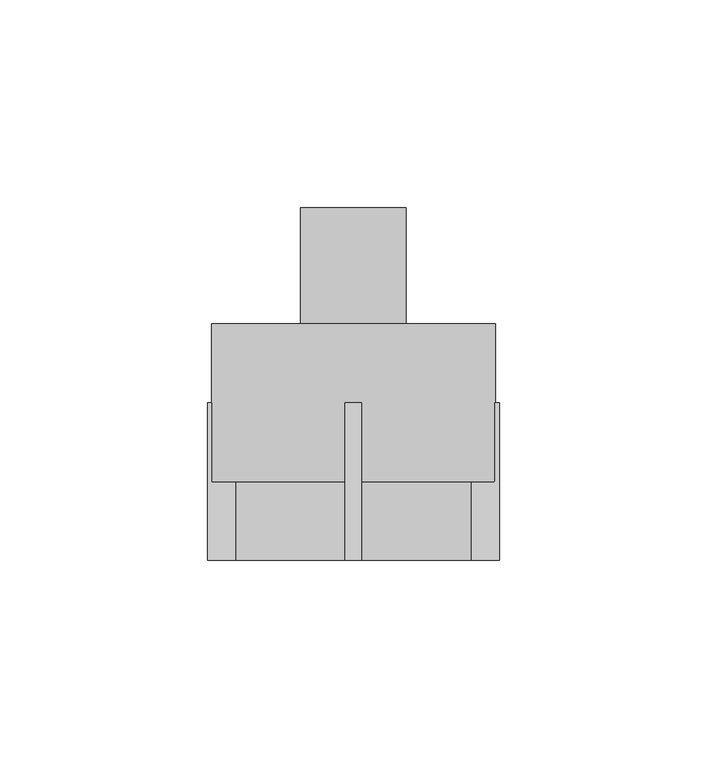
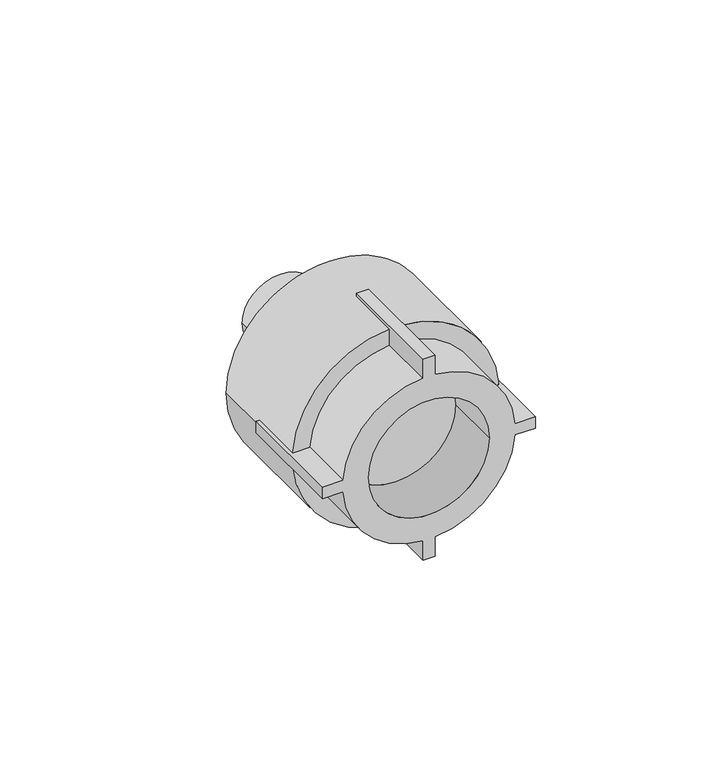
"""IFC4 building model written with IfcOpenShell, lengths in millimetres: pipe fitting geometry, EGB_VASEN_ PPR_Entronque rosca macho WXR101 : Entronque rosca macho WXR101."""

from ifc_helpers import new_model, si_unit, point, frame, origin, origin_2d, place, context, project, spatial, polyline, circle_curve, trimmed, segment, composite_curve, outline, extrude, source, transform, mapped, element, save
from ifc_brep_helpers import plane_surface, cylinder_surface, revolved_surface, advanced_brep


def pipe_fitting_75035f9a(model_context):
    return source(origin(), model_context, "Body", "SolidModel", [
        advanced_brep(
        [(2.0, -19.0, 35.2), (-2.0, -19.0, 35.2), (-2.0, -19.0, 28.429738), (-28.429738, -19.0, 2.0), (-35.2, -19.0, 2.0), (-35.2, -19.0, -2.0), (-28.429738, -19.0, -2.0), (-2.0, -19.0, -28.429738), (-2.0, -19.0, -35.2), (2.0, -19.0, -35.2), (2.0, -19.0, -28.429738), (28.429738, -19.0, -2.0), (35.2, -19.0, -2.0), (35.2, -19.0, 2.0), (28.429738, -19.0, 2.0), (2.0, -19.0, 28.429738), (-20.0, -19.0, 0.0), (20.0, -19.0, 0.0), (-2.0, 19.0, 35.2), (2.0, 19.0, 35.2), (2.0, 19.0, 34.1414704), (-2.0, 19.0, 34.1414704), (2.0, 19.0, -35.2), (-2.0, 19.0, -35.2), (-2.0, 19.0, -34.1414704), (2.0, 19.0, -34.1414704), (35.2, 19.0, 2.0), (35.2, 19.0, -2.0), (34.1414704, 19.0, -2.0), (34.2, 19.0, 0.0), (34.1414704, 19.0, 2.0), (-35.2, 19.0, -2.0), (-35.2, 19.0, 2.0), (-34.1414704, 19.0, 2.0), (-34.2, 19.0, 0.0), (-34.1414704, 19.0, -2.0), (2.0, 0.0, 28.429738), (2.0, 0.0, 34.1414704), (-2.0, 0.0, 34.1414704), (-2.0, 0.0, 28.429738), (2.0, 0.0, -34.1414704), (2.0, 0.0, -28.429738), (-2.0, 0.0, -28.429738), (-2.0, 0.0, -34.1414704), (28.429738, 0.0, -2.0), (34.1414704, 0.0, -2.0), (34.1414704, 0.0, 2.0), (28.429738, 0.0, 2.0), (-34.1414704, 0.0, -2.0), (-28.429738, 0.0, -2.0), (-28.429738, 0.0, 2.0), (-34.1414704, 0.0, 2.0), (-20.0, 0.0, 0.0), (20.0, 0.0, 0.0), (-34.2, 38.0, 0.0), (34.2, 38.0, 0.0)],
        [
            (0, 1),
            (1, 2),
            (2, 3, circle_curve(frame((0.0, -19.0, 0.0), z_axis=(0.0, -1.0, 0.0), x_axis=(1.0, 0.0, 0.0)), 28.5)),
            (3, 4),
            (4, 5),
            (5, 6),
            (6, 7, circle_curve(frame((0.0, -19.0, 0.0), z_axis=(0.0, -1.0, 0.0), x_axis=(1.0, 0.0, 0.0)), 28.5)),
            (7, 8),
            (8, 9),
            (9, 10),
            (10, 11, circle_curve(frame((0.0, -19.0, 0.0), z_axis=(0.0, -1.0, 0.0), x_axis=(1.0, 0.0, 0.0)), 28.5)),
            (11, 12),
            (12, 13),
            (13, 14),
            (14, 15, circle_curve(frame((0.0, -19.0, 0.0), z_axis=(0.0, -1.0, 0.0), x_axis=(1.0, 0.0, 0.0)), 28.5)),
            (15, 0),
            (16, 17, circle_curve(frame((0.0, -19.0, 0.0), z_axis=(0.0, 1.0, 0.0), x_axis=(1.0, 0.0, 0.0)), 20.0)),
            (17, 16, circle_curve(frame((0.0, -19.0, 0.0), z_axis=(0.0, 1.0, 0.0), x_axis=(1.0, 0.0, 0.0)), 20.0)),
            (18, 19),
            (19, 20),
            (20, 21, circle_curve(frame((0.0, 19.0, 0.0), z_axis=(0.0, -1.0, 0.0), x_axis=(1.0, 0.0, 0.0)), 34.2)),
            (21, 18),
            (22, 23),
            (23, 24),
            (24, 25, circle_curve(frame((0.0, 19.0, 0.0), z_axis=(0.0, -1.0, 0.0), x_axis=(1.0, 0.0, 0.0)), 34.2)),
            (25, 22),
            (26, 27),
            (27, 28),
            (28, 29, circle_curve(frame((0.0, 19.0, 0.0), z_axis=(0.0, -1.0, 0.0), x_axis=(1.0, 0.0, 0.0)), 34.2)),
            (29, 30, circle_curve(frame((0.0, 19.0, 0.0), z_axis=(0.0, -1.0, 0.0), x_axis=(1.0, 0.0, 0.0)), 34.2)),
            (30, 26),
            (31, 32),
            (32, 33),
            (33, 34, circle_curve(frame((0.0, 19.0, 0.0), z_axis=(0.0, -1.0, 0.0), x_axis=(1.0, 0.0, 0.0)), 34.2)),
            (34, 35, circle_curve(frame((0.0, 19.0, 0.0), z_axis=(0.0, -1.0, 0.0), x_axis=(1.0, 0.0, 0.0)), 34.2)),
            (35, 31),
            (19, 0),
            (15, 36),
            (36, 37),
            (37, 20),
            (18, 1),
            (21, 38),
            (38, 39),
            (39, 2),
            (8, 23),
            (22, 9),
            (25, 40),
            (40, 41),
            (41, 10),
            (7, 42),
            (42, 43),
            (43, 24),
            (27, 12),
            (11, 44),
            (44, 45),
            (45, 28),
            (26, 13),
            (30, 46),
            (46, 47),
            (47, 14),
            (5, 31),
            (35, 48),
            (48, 49),
            (49, 6),
            (32, 4),
            (3, 50),
            (50, 51),
            (51, 33),
            (49, 42, circle_curve(frame((0.0, 0.0, 0.0), z_axis=(0.0, -1.0, 0.0), x_axis=(1.0, 0.0, 0.0)), 28.5)),
            (41, 44, circle_curve(frame((0.0, 0.0, 0.0), z_axis=(0.0, -1.0, 0.0), x_axis=(1.0, 0.0, 0.0)), 28.5)),
            (39, 50, circle_curve(frame((0.0, 0.0, 0.0), z_axis=(0.0, -1.0, 0.0), x_axis=(1.0, 0.0, 0.0)), 28.5)),
            (47, 36, circle_curve(frame((0.0, 0.0, 0.0), z_axis=(0.0, -1.0, 0.0), x_axis=(1.0, 0.0, 0.0)), 28.5)),
            (16, 52),
            (52, 53, circle_curve(frame((0.0, 0.0, 0.0), z_axis=(0.0, 1.0, 0.0), x_axis=(1.0, 0.0, 0.0)), 20.0)),
            (53, 17),
            (53, 52, circle_curve(frame((0.0, 0.0, 0.0), z_axis=(0.0, 1.0, 0.0), x_axis=(1.0, 0.0, 0.0)), 20.0)),
            (40, 45, circle_curve(frame((0.0, 0.0, 0.0), z_axis=(0.0, -1.0, 0.0), x_axis=(1.0, 0.0, 0.0)), 34.2)),
            (48, 43, circle_curve(frame((0.0, 0.0, 0.0), z_axis=(0.0, -1.0, 0.0), x_axis=(1.0, 0.0, 0.0)), 34.2)),
            (46, 37, circle_curve(frame((0.0, 0.0, 0.0), z_axis=(0.0, -1.0, 0.0), x_axis=(1.0, 0.0, 0.0)), 34.2)),
            (38, 51, circle_curve(frame((0.0, 0.0, 0.0), z_axis=(0.0, -1.0, 0.0), x_axis=(1.0, 0.0, 0.0)), 34.2)),
            (54, 55, circle_curve(frame((0.0, 38.0, 0.0), z_axis=(0.0, 1.0, 0.0), x_axis=(1.0, 0.0, 0.0)), 34.2)),
            (55, 54, circle_curve(frame((0.0, 38.0, 0.0), z_axis=(0.0, 1.0, 0.0), x_axis=(1.0, 0.0, 0.0)), 34.2)),
            (55, 29),
            (34, 54),
        ],
        [
            plane_surface(frame((0.0, -19.0, 0.0), z_axis=(0.0, -1.0, 0.0), x_axis=(0.0, 0.0, 1.0))),
            plane_surface(frame((0.0, 19.0, 0.0), z_axis=(0.0, 1.0, 0.0), x_axis=(0.0, 0.0, 1.0))),
            plane_surface(frame((2.0, -19.0, 27.5), z_axis=(1.0, 0.0, 0.0), x_axis=(0.0, 1.0, 0.0))),
            plane_surface(frame((2.0, -19.0, 35.2), z_axis=(0.0, 0.0, 1.0), x_axis=(0.0, 1.0, 0.0))),
            plane_surface(frame((-2.0, -19.0, 35.2), z_axis=(-1.0, 0.0, 0.0), x_axis=(0.0, 1.0, 0.0))),
            plane_surface(frame((-2.0, -19.0, -35.2), z_axis=(0.0, 0.0, -1.0), x_axis=(0.0, 1.0, 0.0))),
            plane_surface(frame((2.0, -19.0, -35.2), z_axis=(1.0, 0.0, 0.0), x_axis=(0.0, 1.0, 0.0))),
            plane_surface(frame((-2.0, -19.0, -27.5), z_axis=(-1.0, 0.0, 0.0), x_axis=(0.0, 1.0, 0.0))),
            plane_surface(frame((27.5, -19.0, -2.0), z_axis=(0.0, 0.0, -1.0), x_axis=(0.0, 1.0, 0.0))),
            plane_surface(frame((35.2, -19.0, -2.0), z_axis=(1.0, 0.0, 0.0), x_axis=(0.0, 1.0, 0.0))),
            plane_surface(frame((35.2, -19.0, 2.0), z_axis=(0.0, 0.0, 1.0), x_axis=(0.0, 1.0, 0.0))),
            plane_surface(frame((-35.2, -19.0, -2.0), z_axis=(0.0, 0.0, -1.0), x_axis=(0.0, 1.0, 0.0))),
            plane_surface(frame((-27.5, -19.0, 2.0), z_axis=(0.0, 0.0, 1.0), x_axis=(0.0, 1.0, 0.0))),
            plane_surface(frame((-35.2, -19.0, 2.0), z_axis=(-1.0, 0.0, 0.0), x_axis=(0.0, 1.0, 0.0))),
            cylinder_surface(frame((0.0, 0.0, 0.0), z_axis=(0.0, -1.0, 0.0), x_axis=(1.0, 0.0, 0.0)), 28.5),
            revolved_surface(polyline([(20.0, 0.0, 0.0), (20.0, -19.0, 0.0)]), (0.0, 0.0, 0.0), (0.0, 1.0, 0.0)),
            plane_surface(frame((34.2, 0.0, 0.0), z_axis=(0.0, -1.0, 0.0), x_axis=(0.0, 0.0, 1.0))),
            plane_surface(frame((34.2, 38.0, 0.0), z_axis=(0.0, 1.0, 0.0), x_axis=(0.0, 0.0, -1.0))),
            cylinder_surface(frame((0.0, 38.0, 0.0), z_axis=(0.0, -1.0, 0.0), x_axis=(1.0, 0.0, 0.0)), 34.2),
        ],
        [
            (0, [[1, 2, 3, 4, 5, 6, 7, 8, 9, 10, 11, 12, 13, 14, 15, 16], [17, 18]]),
            (1, [[19, 20, 21, 22]]),
            (1, [[23, 24, 25, 26]]),
            (1, [[27, 28, 29, 30, 31]]),
            (1, [[32, 33, 34, 35, 36]]),
            (2, [[37, -16, 38, 39, 40, -20]]),
            (3, [[-1, -37, -19, 41]]),
            (4, [[-41, -22, 42, 43, 44, -2]]),
            (5, [[-9, 45, -23, 46]]),
            (6, [[-46, -26, 47, 48, 49, -10]]),
            (7, [[-45, -8, 50, 51, 52, -24]]),
            (8, [[53, -12, 54, 55, 56, -28]]),
            (9, [[-13, -53, -27, 57]]),
            (10, [[-57, -31, 58, 59, 60, -14]]),
            (11, [[61, -36, 62, 63, 64, -6]]),
            (12, [[65, -4, 66, 67, 68, -33]]),
            (13, [[-5, -65, -32, -61]]),
            (14, [[-7, -64, 69, -50]]),
            (14, [[-11, -49, 70, -54]]),
            (14, [[-3, -44, 71, -66]]),
            (14, [[-15, -60, 72, -38]]),
            (15, [[-17, 73, 74, 75]]),
            (15, [[-18, -75, 76, -73]]),
            (16, [[-74, -76]]),
            (16, [[77, -55, -70, -48]]),
            (16, [[78, -51, -69, -63]]),
            (16, [[79, -39, -72, -59]]),
            (16, [[80, -67, -71, -43]]),
            (17, [[81, 82]]),
            (18, [[-82, 83, -29, -56, -77, -47, -25, -52, -78, -62, -35, 84]]),
            (18, [[-81, -84, -34, -68, -80, -42, -21, -40, -79, -58, -30, -83]]),
        ],
    ),
        extrude(outline(composite_curve([segment(trimmed(circle_curve(origin_2d(), 12.7), [point((0.0, -12.7))], [point((0.0, 12.7))], False, "CARTESIAN"), True, "CONTINUOUS"), segment(trimmed(circle_curve(origin_2d(), 12.7), [point((0.0, 12.7))], [point((0.0, -12.7))], False, "CARTESIAN"), True, "CONTINUOUS")], self_intersect=False)), frame((0.0, 19.0, 0.0), z_axis=(0.0, 1.0, 0.0), x_axis=(0.0, 0.0, 1.0)), (0.0, 0.0, 1.0), 47.0),
    ])


if __name__ == "__main__":
    model = new_model("IFC4")
    model_context = context("Model", 3, world=origin())
    ifc_project = project(units=[si_unit("LENGTHUNIT", "METRE", prefix="MILLI")], contexts=[model_context])
    site = spatial("IfcSite", under=ifc_project)
    building = spatial("IfcBuilding", under=site)
    placement = place(None, origin())
    pipe_fitting_shape = pipe_fitting_75035f9a(model_context)
    element("IfcPipeFitting", 1, ObjectType="EGB_VASEN_ PPR_Entronque rosca macho WXR101 : Entronque rosca macho WXR101", at=placement, inside=building, context=model_context, shape_type="MappedRepresentation", body=[
        mapped(pipe_fitting_shape, transform((0.0, 0.0, 0.0), x_axis=(1.0, 0.0, 0.0), y_axis=(0.0, 1.0, 0.0), z_axis=(0.0, 0.0, 1.0))),
    ])
    save(model, "model.ifc")
